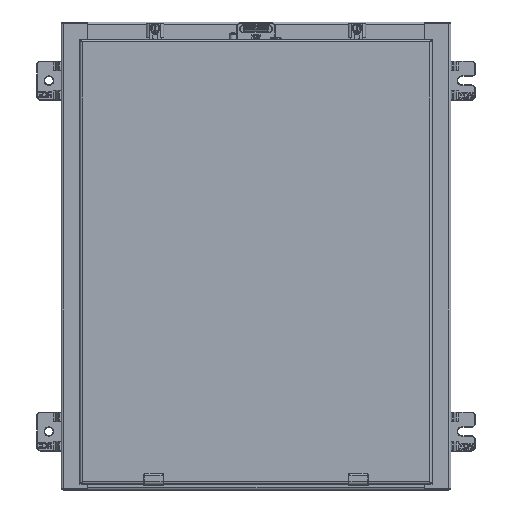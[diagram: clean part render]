
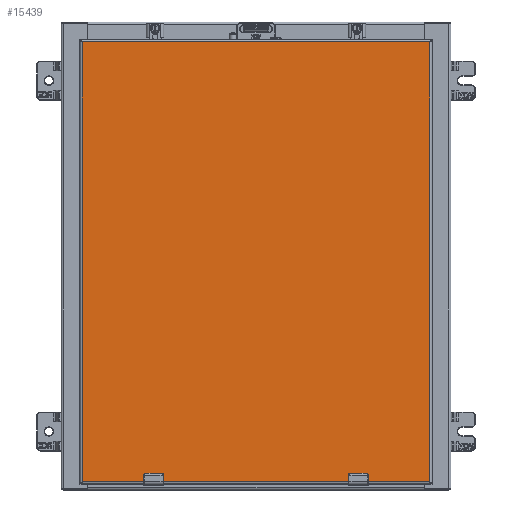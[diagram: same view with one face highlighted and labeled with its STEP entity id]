
A CAD part, top view. The second image highlights one B-rep face of the part: STEP entity #15439.
In plain terms, the highlighted planar face has unit normal (0, 0, 1) as drawn and (0, 1, 0) by its records, which use the part's own axes.
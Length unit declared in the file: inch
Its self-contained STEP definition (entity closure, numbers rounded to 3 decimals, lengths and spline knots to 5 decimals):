
#11872=DIRECTION('',(0.,0.,1.));
#11873=VECTOR('',#11872,22.566);
#11874=CARTESIAN_POINT('',(-8.91438,0.,0.117));
#11875=LINE('',#11874,#11873);
#11962=DIRECTION('',(0.,0.,-1.));
#11963=VECTOR('',#11962,0.3629);
#11964=CARTESIAN_POINT('',(5.59513,0.,22.683));
#11965=LINE('',#11964,#11963);
#11969=DIRECTION('',(-1.,0.,0.));
#11970=VECTOR('',#11969,0.63);
#11971=CARTESIAN_POINT('',(5.56513,0.,22.2901));
#11972=LINE('',#11971,#11970);
#11976=DIRECTION('',(0.,0.,-1.));
#11977=VECTOR('',#11976,0.3629);
#11978=CARTESIAN_POINT('',(4.90513,0.,22.683));
#11979=LINE('',#11978,#11977);
#11983=DIRECTION('',(0.,0.,-1.));
#11984=VECTOR('',#11983,0.3629);
#11985=CARTESIAN_POINT('',(-4.90513,0.,22.683));
#11986=LINE('',#11985,#11984);
#11990=DIRECTION('',(-1.,0.,0.));
#11991=VECTOR('',#11990,0.63);
#11992=CARTESIAN_POINT('',(-4.93513,0.,22.2901));
#11993=LINE('',#11992,#11991);
#11997=DIRECTION('',(0.,0.,-1.));
#11998=VECTOR('',#11997,0.3629);
#11999=CARTESIAN_POINT('',(-5.59513,0.,22.683));
#12000=LINE('',#11999,#11998);
#12004=DIRECTION('',(0.,0.,1.));
#12005=VECTOR('',#12004,22.566);
#12006=CARTESIAN_POINT('',(8.91438,0.,0.117));
#12007=LINE('',#12006,#12005);
#12195=DIRECTION('',(-1.,0.,0.));
#12196=VECTOR('',#12195,17.82875);
#12197=CARTESIAN_POINT('',(8.91438,0.,0.117));
#12198=LINE('',#12197,#12196);
#13052=CARTESIAN_POINT('',(4.93513,0.,22.3201));
#13053=DIRECTION('',(0.,-1.,0.));
#13054=DIRECTION('',(-1.,0.,0.));
#13055=AXIS2_PLACEMENT_3D('',#13052,#13053,#13054);
#13082=CARTESIAN_POINT('',(5.56513,0.,22.3201));
#13083=DIRECTION('',(0.,-1.,0.));
#13084=DIRECTION('',(0.,0.,-1.));
#13085=AXIS2_PLACEMENT_3D('',#13082,#13083,#13084);
#13491=DIRECTION('',(-1.,0.,0.));
#13492=VECTOR('',#13491,9.81025);
#13493=CARTESIAN_POINT('',(4.90513,0.,22.683));
#13494=LINE('',#13493,#13492);
#13538=DIRECTION('',(-1.,0.,0.));
#13539=VECTOR('',#13538,3.31925);
#13540=CARTESIAN_POINT('',(-5.59513,0.,22.683));
#13541=LINE('',#13540,#13539);
#13575=DIRECTION('',(-1.,0.,0.));
#13576=VECTOR('',#13575,3.31925);
#13577=CARTESIAN_POINT('',(8.91438,0.,22.683));
#13578=LINE('',#13577,#13576);
#13656=CARTESIAN_POINT('',(-5.56513,0.,22.3201));
#13657=DIRECTION('',(0.,-1.,0.));
#13658=DIRECTION('',(-1.,0.,0.));
#13659=AXIS2_PLACEMENT_3D('',#13656,#13657,#13658);
#13686=CARTESIAN_POINT('',(-4.93513,0.,22.3201));
#13687=DIRECTION('',(0.,-1.,0.));
#13688=DIRECTION('',(0.,0.,-1.));
#13689=AXIS2_PLACEMENT_3D('',#13686,#13687,#13688);
#14530=CARTESIAN_POINT('',(8.91438,0.,0.117));
#14531=CARTESIAN_POINT('',(-8.91438,0.,0.117));
#14532=VERTEX_POINT('',#14530);
#14533=VERTEX_POINT('',#14531);
#14740=CARTESIAN_POINT('',(-8.91438,0.,22.683));
#14741=VERTEX_POINT('',#14740);
#14750=CARTESIAN_POINT('',(8.91438,0.,22.683));
#14752=VERTEX_POINT('',#14750);
#14847=CARTESIAN_POINT('',(-4.90513,0.,22.683));
#14849=VERTEX_POINT('',#14847);
#14851=CARTESIAN_POINT('',(-5.59513,0.,22.683));
#14853=VERTEX_POINT('',#14851);
#14863=CARTESIAN_POINT('',(5.59513,0.,22.683));
#14865=VERTEX_POINT('',#14863);
#14867=CARTESIAN_POINT('',(4.90513,0.,22.683));
#14869=VERTEX_POINT('',#14867);
#14878=CARTESIAN_POINT('',(-5.59513,0.,22.3201));
#14880=VERTEX_POINT('',#14878);
#14882=CARTESIAN_POINT('',(-5.56513,0.,22.2901));
#14884=VERTEX_POINT('',#14882);
#14902=CARTESIAN_POINT('',(-4.93513,0.,22.2901));
#14904=VERTEX_POINT('',#14902);
#14906=CARTESIAN_POINT('',(-4.90513,0.,22.3201));
#14908=VERTEX_POINT('',#14906);
#14910=CARTESIAN_POINT('',(4.90513,0.,22.3201));
#14912=VERTEX_POINT('',#14910);
#14914=CARTESIAN_POINT('',(4.93513,0.,22.2901));
#14916=VERTEX_POINT('',#14914);
#14934=CARTESIAN_POINT('',(5.56513,0.,22.2901));
#14936=VERTEX_POINT('',#14934);
#14938=CARTESIAN_POINT('',(5.59513,0.,22.3201));
#14940=VERTEX_POINT('',#14938);
#15401=CARTESIAN_POINT('',(9.03138,0.,0.));
#15402=DIRECTION('',(0.,1.,0.));
#15403=DIRECTION('',(-1.,0.,0.));
#15404=AXIS2_PLACEMENT_3D('',#15401,#15402,#15403);
#15405=PLANE('',#15404);
#15407=ORIENTED_EDGE('',*,*,#15406,.T.);
#15409=ORIENTED_EDGE('',*,*,#15408,.T.);
#15411=ORIENTED_EDGE('',*,*,#15410,.T.);
#15413=ORIENTED_EDGE('',*,*,#15412,.F.);
#15415=ORIENTED_EDGE('',*,*,#15414,.T.);
#15417=ORIENTED_EDGE('',*,*,#15416,.F.);
#15419=ORIENTED_EDGE('',*,*,#15418,.F.);
#15421=ORIENTED_EDGE('',*,*,#15420,.T.);
#15423=ORIENTED_EDGE('',*,*,#15422,.T.);
#15425=ORIENTED_EDGE('',*,*,#15424,.F.);
#15427=ORIENTED_EDGE('',*,*,#15426,.T.);
#15429=ORIENTED_EDGE('',*,*,#15428,.F.);
#15431=ORIENTED_EDGE('',*,*,#15430,.F.);
#15433=ORIENTED_EDGE('',*,*,#15432,.T.);
#15434=ORIENTED_EDGE('',*,*,#15391,.F.);
#15436=ORIENTED_EDGE('',*,*,#15435,.F.);
#15437=EDGE_LOOP('',(#15407,#15409,#15411,#15413,#15415,#15417,#15419,#15421,
#15423,#15425,#15427,#15429,#15431,#15433,#15434,#15436));
#15438=FACE_OUTER_BOUND('',#15437,.F.);
#13056=CIRCLE('',#13055,0.03);
#13086=CIRCLE('',#13085,0.03);
#13660=CIRCLE('',#13659,0.03);
#13690=CIRCLE('',#13689,0.03);
#15391=EDGE_CURVE('',#14533,#14741,#11875,.T.);
#15406=EDGE_CURVE('',#14532,#14752,#12007,.T.);
#15408=EDGE_CURVE('',#14752,#14865,#13578,.T.);
#15410=EDGE_CURVE('',#14865,#14940,#11965,.T.);
#15412=EDGE_CURVE('',#14936,#14940,#13086,.T.);
#15414=EDGE_CURVE('',#14936,#14916,#11972,.T.);
#15416=EDGE_CURVE('',#14912,#14916,#13056,.T.);
#15418=EDGE_CURVE('',#14869,#14912,#11979,.T.);
#15420=EDGE_CURVE('',#14869,#14849,#13494,.T.);
#15422=EDGE_CURVE('',#14849,#14908,#11986,.T.);
#15424=EDGE_CURVE('',#14904,#14908,#13690,.T.);
#15426=EDGE_CURVE('',#14904,#14884,#11993,.T.);
#15428=EDGE_CURVE('',#14880,#14884,#13660,.T.);
#15430=EDGE_CURVE('',#14853,#14880,#12000,.T.);
#15432=EDGE_CURVE('',#14853,#14741,#13541,.T.);
#15435=EDGE_CURVE('',#14532,#14533,#12198,.T.);
#15439=ADVANCED_FACE('',(#15438),#15405,.T.);
